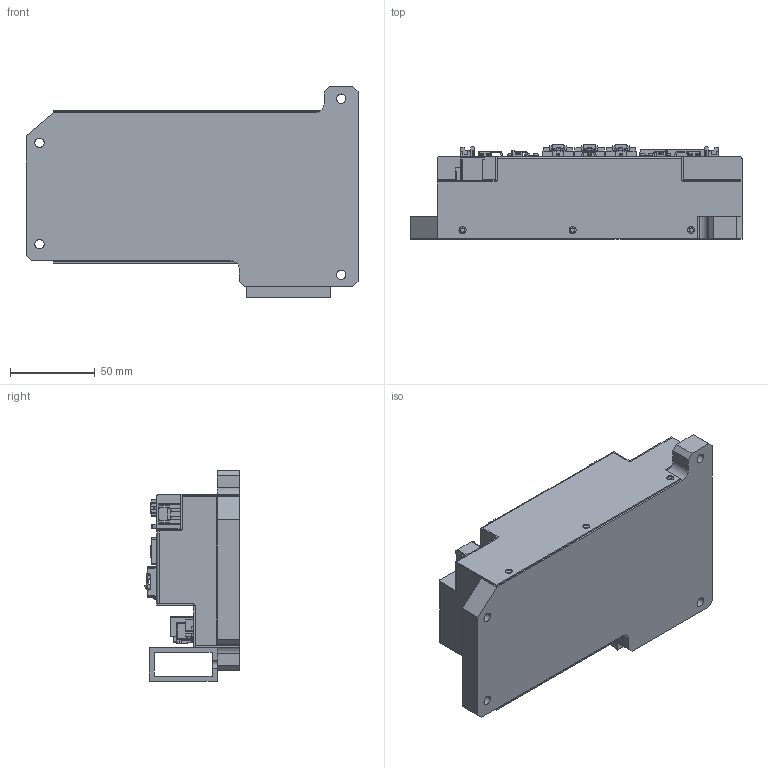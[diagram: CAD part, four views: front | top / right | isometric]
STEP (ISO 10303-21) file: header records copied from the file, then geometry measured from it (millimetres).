
FILE_DESCRIPTION((''),'2;1');
FILE_NAME('000_ASM','2022-06-02T17:29:26',('RD0060'),(''),'CREO PARAMETRIC BY PTC INC, 2016510','CREO PARAMETRIC BY PTC INC, 2016510','');
FILE_SCHEMA(('CONFIG_CONTROL_DESIGN','SHAPE_APPEARANCE_LAYERS_GROUPS'));
Products named in the file (36): PCB; 039281023; 768290004; 1716920104; DF60-2P-10_16DSA; DF60A-2S-10_16C_PRT-36530_ASM; DF60A-2S-10_16C_ASM; DF22R-2P-7_92DSA; FD22R-2P_ASM; 559320210; 559320210_ASM; APCB_ASM; PCB2; 5016451620; 559320610; 559320610_ASM; 559320710; 513820700; 559320710_ASM; C-1734753-1-A-3D; BOMA; 559320310; 559320310_ASM; BPCB_ASM; PCBA_ASM; HT; HS; HS1; HS2; HS3; RESISTOR; M3X5; M3-NUT; FD134HS_ASM; TR; 000_ASM
Assembly tree (51 placements, depth 5):
  000_ASM
    PCBA_ASM
      APCB_ASM
        PCB
        039281023
        768290004  x2
        1716920104
        DF60A-2S-10_16C_ASM
          DF60-2P-10_16DSA
          DF60A-2S-10_16C_PRT-36530_ASM
        FD22R-2P_ASM  x2
          DF22R-2P-7_92DSA
        559320210_ASM  x2
          559320210
      BPCB_ASM
        PCB2
        5016451620  x2
        559320610_ASM  x2
          559320610
        559320710_ASM  x3
          559320710
          513820700
        C-1734753-1-A-3D  x2
        BOMA
        559320310_ASM  x2
          559320310
    HT
    FD134HS_ASM
      HS
      HS1
      HS2
      HS3
      RESISTOR
      M3X5  x4
      M3-NUT  x4
    TR
    BOMA
Bounding box: 196 x 55.65 x 124.25 mm (x, y, z)
Volume: 435602.5 mm3; surface area: 257653.3 mm2
Topology: 44 solids, 44 shells, 6534 faces, 17136 edges, 10998 vertices
Faces by surface type: plane 5299, cylinder 1073, sphere 84, cone 54, bspline 16, torus 8
Entity records: 153981 total; most frequent: CARTESIAN_POINT 20232, ORIENTED_EDGE 18620, DIRECTION 17904, PRESENTATION_STYLE_ASSIGNMENT 10686, STYLED_ITEM 10686, EDGE_CURVE 9310, CURVE_STYLE 7735, VECTOR 7708
